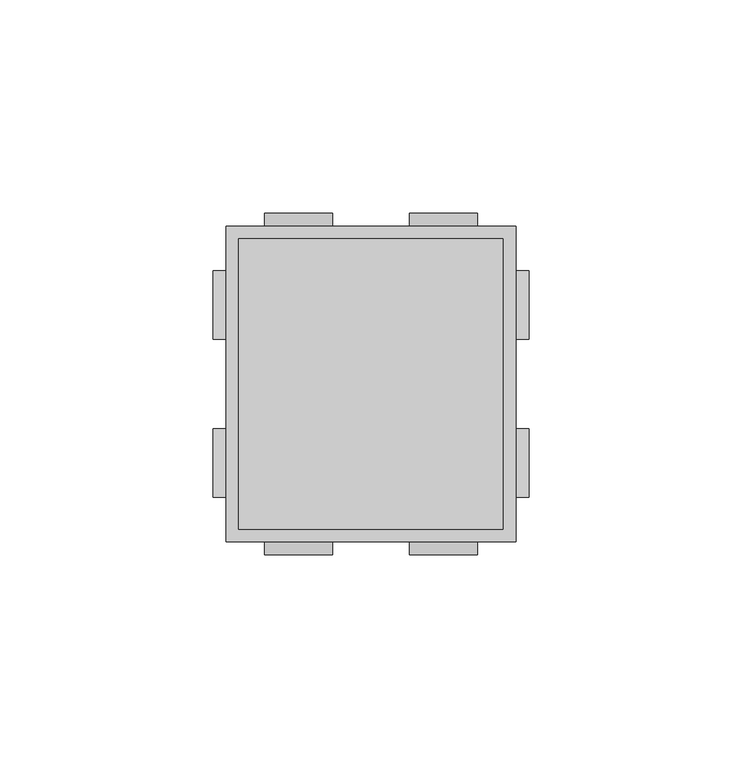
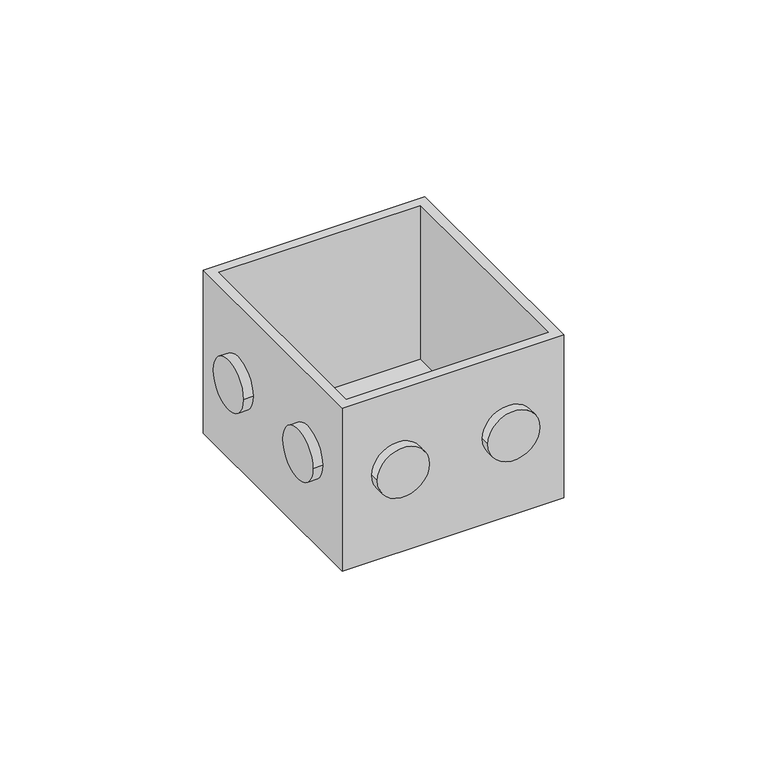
"""IFC4 building model written with IfcOpenShell, lengths in millimetres: switching device geometry, BT_LN_MHU-SensoriAdInfrarossiIncasso_PIR : Scatola per installazione a incasso - Art. 502E (sensori)."""

from ifc_helpers import new_model, si_unit, point, frame, frame_2d, origin, place, context, project, spatial, circle_curve, trimmed, segment, composite_curve, outline, extrude, faceted_brep, source, transform, mapped, element, save


def switching_device_90496991(model_context):
    return source(origin(), model_context, "Body", "SolidModel", [
        extrude(outline(composite_curve([segment(trimmed(circle_curve(frame_2d((18.5, -25.0)), 8.0), [point((10.5, -25.0))], [point((26.5, -25.0))], False, "CARTESIAN"), True, "CONTINUOUS"), segment(trimmed(circle_curve(frame_2d((18.5, -25.0)), 8.0), [point((26.5, -25.0))], [point((10.5, -25.0))], False, "CARTESIAN"), True, "CONTINUOUS")], self_intersect=False)), frame((-37.0, 0.0, 0.0), z_axis=(1.0, 0.0, 0.0), x_axis=(0.0, 1.0, 0.0)), (0.0, 0.0, 1.0), 3.0),
        extrude(outline(composite_curve([segment(trimmed(circle_curve(frame_2d((-18.5, -25.0)), 8.0), [point((-26.5, -25.0))], [point((-10.5, -25.0))], False, "CARTESIAN"), True, "CONTINUOUS"), segment(trimmed(circle_curve(frame_2d((-18.5, -25.0)), 8.0), [point((-10.5, -25.0))], [point((-26.5, -25.0))], False, "CARTESIAN"), True, "CONTINUOUS")], self_intersect=False)), frame((-37.0, 0.0, 0.0), z_axis=(1.0, 0.0, 0.0), x_axis=(0.0, 1.0, 0.0)), (0.0, 0.0, 1.0), 3.0),
        extrude(outline(composite_curve([segment(trimmed(circle_curve(frame_2d((-25.0, -17.0)), 8.0), [point((-25.0, -25.0))], [point((-25.0, -9.0))], False, "CARTESIAN"), True, "CONTINUOUS"), segment(trimmed(circle_curve(frame_2d((-25.0, -17.0)), 8.0), [point((-25.0, -9.0))], [point((-25.0, -25.0))], False, "CARTESIAN"), True, "CONTINUOUS")], self_intersect=False)), frame((0.0, -40.0, 0.0), z_axis=(0.0, 1.0, 0.0), x_axis=(0.0, 0.0, 1.0)), (0.0, 0.0, 1.0), 3.0),
        extrude(outline(composite_curve([segment(trimmed(circle_curve(frame_2d((-25.0, 17.0)), 8.0), [point((-25.0, 9.0))], [point((-25.0, 25.0))], False, "CARTESIAN"), True, "CONTINUOUS"), segment(trimmed(circle_curve(frame_2d((-25.0, 17.0)), 8.0), [point((-25.0, 25.0))], [point((-25.0, 9.0))], False, "CARTESIAN"), True, "CONTINUOUS")], self_intersect=False)), frame((0.0, -40.0, 0.0), z_axis=(0.0, 1.0, 0.0), x_axis=(0.0, 0.0, 1.0)), (0.0, 0.0, 1.0), 3.0),
        extrude(outline(composite_curve([segment(trimmed(circle_curve(frame_2d((-18.5, -25.0)), 8.0), [point((-26.5, -25.0))], [point((-10.5, -25.0))], False, "CARTESIAN"), True, "CONTINUOUS"), segment(trimmed(circle_curve(frame_2d((-18.5, -25.0)), 8.0), [point((-10.5, -25.0))], [point((-26.5, -25.0))], False, "CARTESIAN"), True, "CONTINUOUS")], self_intersect=False)), frame((34.0, 0.0, 0.0), z_axis=(1.0, 0.0, 0.0), x_axis=(0.0, 1.0, 0.0)), (0.0, 0.0, 1.0), 3.0),
        extrude(outline(composite_curve([segment(trimmed(circle_curve(frame_2d((18.5, -25.0)), 8.0), [point((10.5, -25.0))], [point((26.5, -25.0))], False, "CARTESIAN"), True, "CONTINUOUS"), segment(trimmed(circle_curve(frame_2d((18.5, -25.0)), 8.0), [point((26.5, -25.0))], [point((10.5, -25.0))], False, "CARTESIAN"), True, "CONTINUOUS")], self_intersect=False)), frame((34.0, 0.0, 0.0), z_axis=(1.0, 0.0, 0.0), x_axis=(0.0, 1.0, 0.0)), (0.0, 0.0, 1.0), 3.0),
        extrude(outline(composite_curve([segment(trimmed(circle_curve(frame_2d((-25.0, -17.0)), 8.0), [point((-25.0, -25.0))], [point((-25.0, -9.0))], False, "CARTESIAN"), True, "CONTINUOUS"), segment(trimmed(circle_curve(frame_2d((-25.0, -17.0)), 8.0), [point((-25.0, -9.0))], [point((-25.0, -25.0))], False, "CARTESIAN"), True, "CONTINUOUS")], self_intersect=False)), frame((0.0, 37.0, 0.0), z_axis=(0.0, 1.0, 0.0), x_axis=(0.0, 0.0, 1.0)), (0.0, 0.0, 1.0), 3.0),
        extrude(outline(composite_curve([segment(trimmed(circle_curve(frame_2d((-25.0, 17.0)), 8.0), [point((-25.0, 9.0))], [point((-25.0, 25.0))], False, "CARTESIAN"), True, "CONTINUOUS"), segment(trimmed(circle_curve(frame_2d((-25.0, 17.0)), 8.0), [point((-25.0, 25.0))], [point((-25.0, 9.0))], False, "CARTESIAN"), True, "CONTINUOUS")], self_intersect=False)), frame((0.0, 37.0, 0.0), z_axis=(0.0, 1.0, 0.0), x_axis=(0.0, 0.0, 1.0)), (0.0, 0.0, 1.0), 3.0),
        faceted_brep([(-31.0, -34.0, -50.0), (31.0, -34.0, -50.0), (31.0, 34.0, -50.0), (-31.0, 34.0, -50.0), (-34.0, 37.0, -53.0), (34.0, 37.0, -53.0), (34.0, -37.0, -53.0), (-34.0, -37.0, -53.0), (-34.0, 37.0, 0.0), (-34.0, -37.0, 0.0), (34.0, -37.0, 0.0), (34.0, 37.0, 0.0), (31.0, -34.0, 0.0), (-31.0, -34.0, 0.0), (-31.0, 34.0, 0.0), (31.0, 34.0, 0.0)], [[[0, 1, 2, 3]], [[4, 5, 6, 7]], [[8, 9, 10, 11], [12, 13, 14, 15]], [[9, 8, 4, 7]], [[10, 9, 7, 6]], [[11, 10, 6, 5]], [[8, 11, 5, 4]], [[13, 12, 1, 0]], [[14, 13, 0, 3]], [[15, 14, 3, 2]], [[12, 15, 2, 1]]]),
    ])


if __name__ == "__main__":
    model = new_model("IFC4")
    model_context = context("Model", 3, world=origin())
    ifc_project = project(units=[si_unit("LENGTHUNIT", "METRE", prefix="MILLI")], contexts=[model_context])
    site = spatial("IfcSite", under=ifc_project)
    building = spatial("IfcBuilding", under=site)
    placement = place(None, origin())
    switching_device_shape = switching_device_90496991(model_context)
    element("IfcSwitchingDevice", 1, ObjectType="BT_LN_MHU-SensoriAdInfrarossiIncasso_PIR : Scatola per installazione a incasso - Art. 502E (sensori)", at=placement, inside=building, context=model_context, shape_type="MappedRepresentation", body=[
        mapped(switching_device_shape, transform((0.0, 0.0, 0.0), x_axis=(1.0, 0.0, 0.0), y_axis=(0.0, 1.0, 0.0), z_axis=(0.0, 0.0, 1.0))),
    ])
    save(model, "model.ifc")
